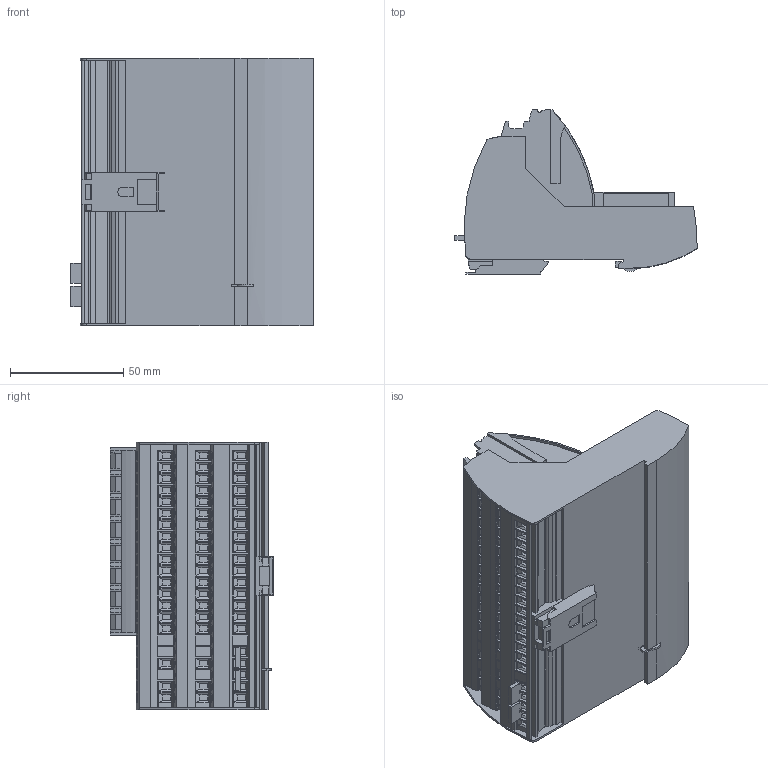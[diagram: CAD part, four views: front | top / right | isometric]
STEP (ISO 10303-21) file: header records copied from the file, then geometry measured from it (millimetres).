
FILE_DESCRIPTION(('SolidDesigner STEP Export'),'2;1');
FILE_NAME('2907024_VIP_S_MC_BASE_17_24_L_EX-select.stp','2015-10-20T 9:30:35',(''),(''),'Creo Elements/Direct Modeling STEP processor for AP214 (Solid Model)','Creo Elements/Direct Modeling 18.1B 29-Sep-2012 (C) Parametric Technology GmbH','');
FILE_SCHEMA(('AUTOMOTIVE_DESIGN { 1 0 10303 214 1 1 1 1 }'));
Products named in the file (2): 2907024_VIP_S_MC_BASE_17_24_L_EX-select
Assembly tree (1 placements, depth 2):
  2907024_VIP_S_MC_BASE_17_24_L_EX-select
    2907024_VIP_S_MC_BASE_17_24_L_EX-select
Bounding box: 106.73 x 72.22 x 118.06 mm (x, y, z)
Volume: 386807.6 mm3; surface area: 92040.8 mm2
Topology: 1 solids, 1 shells, 3863 faces, 10271 edges, 6605 vertices
Faces by surface type: plane 3593, cylinder 269, sphere 1
Entity records: 142365 total; most frequent: ORIENTED_EDGE 20542, CARTESIAN_POINT 19471, DIRECTION 16756, EDGE_CURVE 10271, VECTOR 8968, LINE 8968, VERTEX_POINT 6605, EDGE_LOOP 4064
